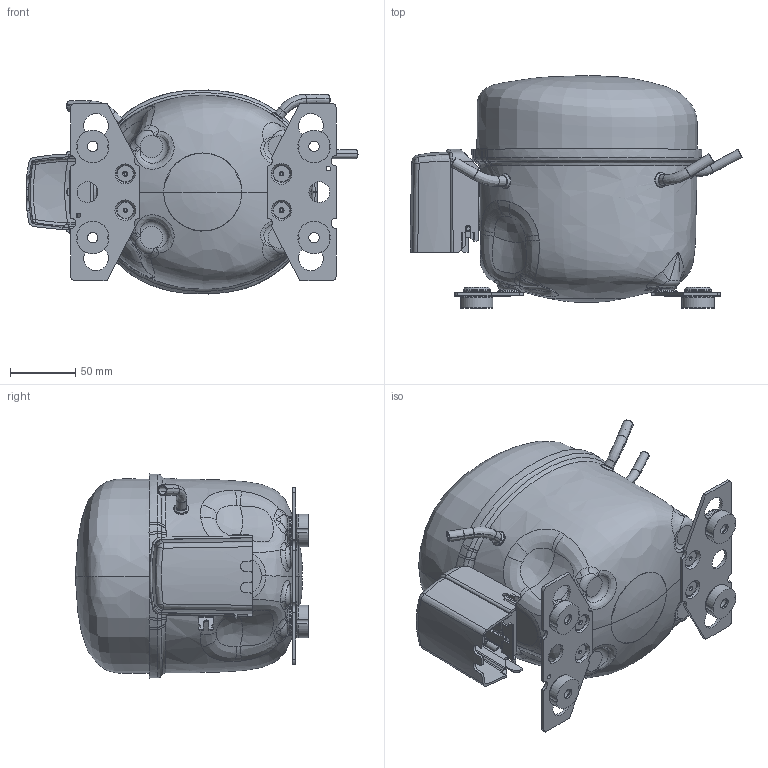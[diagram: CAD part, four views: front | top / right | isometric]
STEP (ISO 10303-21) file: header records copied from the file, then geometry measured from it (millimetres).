
FILE_DESCRIPTION((''),'2;1');
FILE_NAME('102B1128_102B1305_ASM','2019-02-07T',('U244840'),(''),'CREO PARAMETRIC BY PTC INC, 2015380','CREO PARAMETRIC BY PTC INC, 2015380','');
FILE_SCHEMA(('CONFIG_CONTROL_DESIGN'));
Products named in the file (15): 102B1413; 102B1508; 117-3617_BODY; 117-3617_PINS; 117-3617_GLASS_FUSED; 117-3617_ASM; 103N0480; 102B1830_PS_BENDING_AF0; 102B1830_PS_BENDING_AF1; 102B1855_PS_BENDING_AF0; 102B1128_PS_ASM; 102B1305_COVER_HIGH; 103N2011; 118-3661; 102B1128_102B1305_ASM
Assembly tree (22 placements, depth 4):
  102B1128_102B1305_ASM
    102B1128_PS_ASM
      102B1413
      102B1508  x2
      117-3617_ASM
        117-3617_BODY
        117-3617_PINS  x3
        117-3617_GLASS_FUSED  x3
      103N0480
      102B1830_PS_BENDING_AF0
      102B1830_PS_BENDING_AF1
      102B1855_PS_BENDING_AF0
    102B1305_COVER_HIGH
    103N2011
    118-3661  x4
Bounding box: 255.02 x 178.32 x 156.71 mm (x, y, z)
Volume: 405027.6 mm3; surface area: 300262.6 mm2
Topology: 20 solids, 20 shells, 1264 faces, 3036 edges, 1796 vertices
Faces by surface type: bspline 405, cylinder 271, plane 257, torus 167, cone 123, sphere 27, revolution 14
Entity records: 60461 total; most frequent: CARTESIAN_POINT 37839, ORIENTED_EDGE 5162, DIRECTION 3872, EDGE_CURVE 2581, VERTEX_POINT 1542, AXIS2_PLACEMENT_3D 1510, EDGE_LOOP 1125, FACE_OUTER_BOUND 1068
